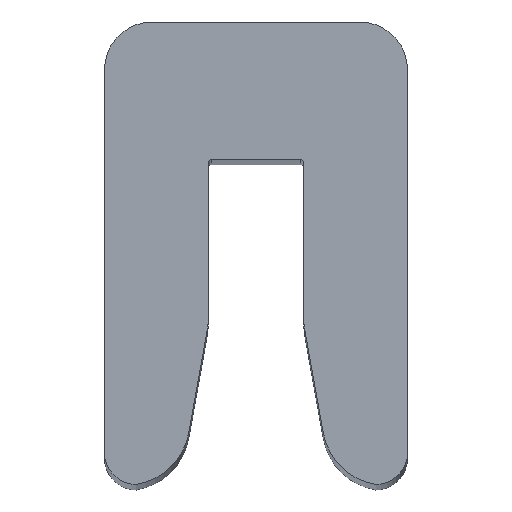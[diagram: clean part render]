
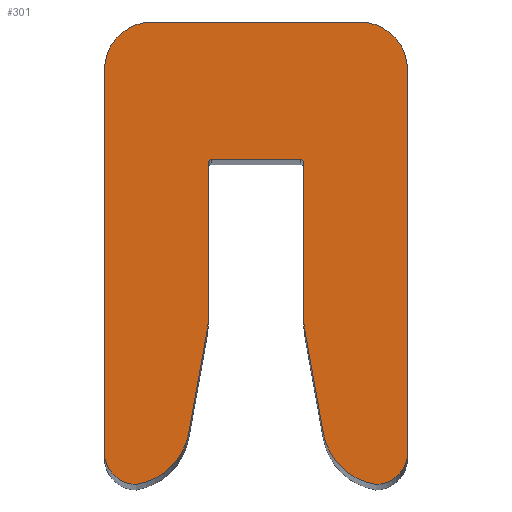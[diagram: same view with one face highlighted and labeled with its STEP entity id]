
A CAD part, top view. The second image highlights one B-rep face of the part: STEP entity #301.
In plain terms, the highlighted planar face has unit normal (0, 0, 1).
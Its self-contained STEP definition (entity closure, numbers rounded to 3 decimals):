
#2 = VECTOR ( 'NONE', #652, 1000. ) ;
#5 = AXIS2_PLACEMENT_3D ( 'NONE', #637, #117, #271 ) ;
#11 = CARTESIAN_POINT ( 'NONE',  ( -3.75, 1., 100. ) ) ;
#14 = CARTESIAN_POINT ( 'NONE',  ( -4.75, 1., 100. ) ) ;
#16 = VECTOR ( 'NONE', #239, 1000. ) ;
#20 = CARTESIAN_POINT ( 'NONE',  ( -4.75, 14.5, 100. ) ) ;
#21 = DIRECTION ( 'NONE',  ( 0., 0., 1. ) ) ;
#22 = EDGE_LOOP ( 'NONE', ( #570, #521, #517, #234, #415, #237, #446, #365, #672, #395, #160, #206, #67, #406, #154, #119, #554, #617 ) ) ;
#23 = CARTESIAN_POINT ( 'NONE',  ( 4.75, 14.5, 100. ) ) ;
#26 = DIRECTION ( 'NONE',  ( 0., -1., 0. ) ) ;
#41 = CARTESIAN_POINT ( 'NONE',  ( 1.5, 5.178, 100. ) ) ;
#50 = DIRECTION ( 'NONE',  ( -1., 0., 0. ) ) ;
#56 = EDGE_CURVE ( 'NONE', #671, #193, #240, .T. ) ;
#57 = LINE ( 'NONE', #529, #185 ) ;
#65 = DIRECTION ( 'NONE',  ( -0.177, -0.984, 0. ) ) ;
#67 = ORIENTED_EDGE ( 'NONE', *, *, #416, .T. ) ;
#73 = LINE ( 'NONE', #338, #16 ) ;
#80 = DIRECTION ( 'NONE',  ( -0.177, 0.984, 0. ) ) ;
#89 = CARTESIAN_POINT ( 'NONE',  ( 1.532, 4.824, 100. ) ) ;
#102 = CARTESIAN_POINT ( 'NONE',  ( -1.5, 0., 100. ) ) ;
#107 = AXIS2_PLACEMENT_3D ( 'NONE', #353, #247, #194 ) ;
#108 = AXIS2_PLACEMENT_3D ( 'NONE', #360, #142, #660 ) ;
#117 = DIRECTION ( 'NONE',  ( 0., 0., -1. ) ) ;
#119 = ORIENTED_EDGE ( 'NONE', *, *, #204, .F. ) ;
#122 = CARTESIAN_POINT ( 'NONE',  ( 1.5, 5., 100. ) ) ;
#125 = DIRECTION ( 'NONE',  ( 0., 0., 1. ) ) ;
#127 = VERTEX_POINT ( 'NONE', #169 ) ;
#134 = LINE ( 'NONE', #550, #469 ) ;
#142 = DIRECTION ( 'NONE',  ( 0., 0., 1. ) ) ;
#151 = VECTOR ( 'NONE', #80, 1000. ) ;
#154 = ORIENTED_EDGE ( 'NONE', *, *, #448, .T. ) ;
#160 = ORIENTED_EDGE ( 'NONE', *, *, #466, .T. ) ;
#162 = CARTESIAN_POINT ( 'NONE',  ( 3.75, 1., 100. ) ) ;
#169 = CARTESIAN_POINT ( 'NONE',  ( -2.108, 1.619, 100. ) ) ;
#174 = CARTESIAN_POINT ( 'NONE',  ( -3.75, 0., 100. ) ) ;
#175 = CARTESIAN_POINT ( 'NONE',  ( 4.75, 13., 100. ) ) ;
#181 = EDGE_CURVE ( 'NONE', #306, #671, #566, .T. ) ;
#184 = LINE ( 'NONE', #20, #532 ) ;
#185 = VECTOR ( 'NONE', #677, 1000. ) ;
#187 = CIRCLE ( 'NONE', #108, 2. ) ;
#188 = VERTEX_POINT ( 'NONE', #650 ) ;
#189 = CARTESIAN_POINT ( 'NONE',  ( 3.75, 0., 100. ) ) ;
#193 = VERTEX_POINT ( 'NONE', #606 ) ;
#194 = DIRECTION ( 'NONE',  ( -1., 0., 0. ) ) ;
#196 = AXIS2_PLACEMENT_3D ( 'NONE', #200, #619, #673 ) ;
#200 = CARTESIAN_POINT ( 'NONE',  ( 1.4, 10.1, 100. ) ) ;
#204 = EDGE_CURVE ( 'NONE', #306, #310, #333, .T. ) ;
#206 = ORIENTED_EDGE ( 'NONE', *, *, #277, .T. ) ;
#208 = CARTESIAN_POINT ( 'NONE',  ( -1.5, 10.1, 100. ) ) ;
#216 = AXIS2_PLACEMENT_3D ( 'NONE', #629, #585, #50 ) ;
#234 = ORIENTED_EDGE ( 'NONE', *, *, #350, .T. ) ;
#237 = ORIENTED_EDGE ( 'NONE', *, *, #593, .T. ) ;
#238 = DIRECTION ( 'NONE',  ( 0., 0., 1. ) ) ;
#239 = DIRECTION ( 'NONE',  ( 0., -1., 0. ) ) ;
#240 = CIRCLE ( 'NONE', #655, 1. ) ;
#246 = PLANE ( 'NONE',  #107 ) ;
#247 = DIRECTION ( 'NONE',  ( 0., 0., -1. ) ) ;
#256 = EDGE_CURVE ( 'NONE', #471, #378, #73, .T. ) ;
#257 = VERTEX_POINT ( 'NONE', #485 ) ;
#258 = VERTEX_POINT ( 'NONE', #174 ) ;
#265 = AXIS2_PLACEMENT_3D ( 'NONE', #493, #238, #656 ) ;
#271 = DIRECTION ( 'NONE',  ( -1., 0., 0. ) ) ;
#272 = DIRECTION ( 'NONE',  ( 0., 0., 1. ) ) ;
#277 = EDGE_CURVE ( 'NONE', #627, #452, #329, .T. ) ;
#286 = CARTESIAN_POINT ( 'NONE',  ( -1.5, 10.2, 100. ) ) ;
#293 = VERTEX_POINT ( 'NONE', #441 ) ;
#296 = AXIS2_PLACEMENT_3D ( 'NONE', #11, #381, #340 ) ;
#299 = CARTESIAN_POINT ( 'NONE',  ( -3.25, 13., 100. ) ) ;
#301 = ADVANCED_FACE ( 'NONE', ( #455 ), #246, .F. ) ;
#306 = VERTEX_POINT ( 'NONE', #402 ) ;
#307 = CIRCLE ( 'NONE', #5, 0.1 ) ;
#310 = VERTEX_POINT ( 'NONE', #89 ) ;
#324 = EDGE_CURVE ( 'NONE', #258, #127, #187, .T. ) ;
#327 = AXIS2_PLACEMENT_3D ( 'NONE', #481, #125, #384 ) ;
#329 = LINE ( 'NONE', #286, #401 ) ;
#333 = LINE ( 'NONE', #122, #151 ) ;
#338 = CARTESIAN_POINT ( 'NONE',  ( 1.5, 0., 100. ) ) ;
#340 = DIRECTION ( 'NONE',  ( -1., 0., 0. ) ) ;
#350 = EDGE_CURVE ( 'NONE', #188, #293, #430, .T. ) ;
#353 = CARTESIAN_POINT ( 'NONE',  ( 0., 0., 100. ) ) ;
#360 = CARTESIAN_POINT ( 'NONE',  ( -4.077, 1.973, 100. ) ) ;
#362 = VERTEX_POINT ( 'NONE', #567 ) ;
#365 = ORIENTED_EDGE ( 'NONE', *, *, #591, .F. ) ;
#370 = DIRECTION ( 'NONE',  ( -1., 0., 0. ) ) ;
#378 = VERTEX_POINT ( 'NONE', #41 ) ;
#381 = DIRECTION ( 'NONE',  ( 0., 0., 1. ) ) ;
#384 = DIRECTION ( 'NONE',  ( -1., 0., 0. ) ) ;
#391 = DIRECTION ( 'NONE',  ( -1., 0., 0. ) ) ;
#395 = ORIENTED_EDGE ( 'NONE', *, *, #538, .T. ) ;
#401 = VECTOR ( 'NONE', #494, 1000. ) ;
#402 = CARTESIAN_POINT ( 'NONE',  ( 2.108, 1.619, 100. ) ) ;
#406 = ORIENTED_EDGE ( 'NONE', *, *, #256, .T. ) ;
#415 = ORIENTED_EDGE ( 'NONE', *, *, #565, .T. ) ;
#416 = EDGE_CURVE ( 'NONE', #452, #471, #488, .T. ) ;
#419 = CARTESIAN_POINT ( 'NONE',  ( 1.5, 10.1, 100. ) ) ;
#421 = LINE ( 'NONE', #102, #2 ) ;
#426 = CARTESIAN_POINT ( 'NONE',  ( 3.25, 14.5, 100. ) ) ;
#430 = CIRCLE ( 'NONE', #633, 1.5 ) ;
#435 = CIRCLE ( 'NONE', #296, 1. ) ;
#441 = CARTESIAN_POINT ( 'NONE',  ( -4.75, 13., 100. ) ) ;
#444 = LINE ( 'NONE', #23, #603 ) ;
#446 = ORIENTED_EDGE ( 'NONE', *, *, #324, .T. ) ;
#448 = EDGE_CURVE ( 'NONE', #378, #310, #507, .T. ) ;
#452 = VERTEX_POINT ( 'NONE', #576 ) ;
#455 = FACE_OUTER_BOUND ( 'NONE', #22, .T. ) ;
#463 = AXIS2_PLACEMENT_3D ( 'NONE', #598, #21, #391 ) ;
#466 = EDGE_CURVE ( 'NONE', #511, #627, #307, .T. ) ;
#469 = VECTOR ( 'NONE', #65, 1000. ) ;
#471 = VERTEX_POINT ( 'NONE', #419 ) ;
#481 = CARTESIAN_POINT ( 'NONE',  ( -3.5, 5.178, 100. ) ) ;
#485 = CARTESIAN_POINT ( 'NONE',  ( -1.532, 4.824, 100. ) ) ;
#488 = CIRCLE ( 'NONE', #196, 0.1 ) ;
#493 = CARTESIAN_POINT ( 'NONE',  ( 3.25, 13., 100. ) ) ;
#494 = DIRECTION ( 'NONE',  ( 1., 0., 0. ) ) ;
#502 = CIRCLE ( 'NONE', #327, 2. ) ;
#507 = CIRCLE ( 'NONE', #216, 2. ) ;
#510 = DIRECTION ( 'NONE',  ( 0., 0., 1. ) ) ;
#511 = VERTEX_POINT ( 'NONE', #208 ) ;
#515 = EDGE_CURVE ( 'NONE', #599, #188, #57, .T. ) ;
#517 = ORIENTED_EDGE ( 'NONE', *, *, #515, .T. ) ;
#521 = ORIENTED_EDGE ( 'NONE', *, *, #666, .T. ) ;
#529 = CARTESIAN_POINT ( 'NONE',  ( 4.75, 14.5, 100. ) ) ;
#532 = VECTOR ( 'NONE', #26, 1000. ) ;
#538 = EDGE_CURVE ( 'NONE', #362, #511, #421, .T. ) ;
#541 = EDGE_CURVE ( 'NONE', #193, #609, #444, .T. ) ;
#550 = CARTESIAN_POINT ( 'NONE',  ( -1.5, 5., 100. ) ) ;
#554 = ORIENTED_EDGE ( 'NONE', *, *, #181, .T. ) ;
#558 = CIRCLE ( 'NONE', #265, 1.5 ) ;
#560 = DIRECTION ( 'NONE',  ( -1., 0., 0. ) ) ;
#565 = EDGE_CURVE ( 'NONE', #293, #575, #184, .T. ) ;
#566 = CIRCLE ( 'NONE', #463, 2. ) ;
#567 = CARTESIAN_POINT ( 'NONE',  ( -1.5, 5.178, 100. ) ) ;
#570 = ORIENTED_EDGE ( 'NONE', *, *, #541, .T. ) ;
#575 = VERTEX_POINT ( 'NONE', #14 ) ;
#576 = CARTESIAN_POINT ( 'NONE',  ( 1.4, 10.2, 100. ) ) ;
#585 = DIRECTION ( 'NONE',  ( 0., 0., 1. ) ) ;
#591 = EDGE_CURVE ( 'NONE', #257, #127, #134, .T. ) ;
#593 = EDGE_CURVE ( 'NONE', #575, #258, #435, .T. ) ;
#596 = DIRECTION ( 'NONE',  ( 0., 1., 0. ) ) ;
#598 = CARTESIAN_POINT ( 'NONE',  ( 4.077, 1.973, 100. ) ) ;
#599 = VERTEX_POINT ( 'NONE', #426 ) ;
#603 = VECTOR ( 'NONE', #596, 1000. ) ;
#606 = CARTESIAN_POINT ( 'NONE',  ( 4.75, 1., 100. ) ) ;
#609 = VERTEX_POINT ( 'NONE', #175 ) ;
#615 = EDGE_CURVE ( 'NONE', #257, #362, #502, .T. ) ;
#617 = ORIENTED_EDGE ( 'NONE', *, *, #56, .T. ) ;
#619 = DIRECTION ( 'NONE',  ( 0., 0., -1. ) ) ;
#627 = VERTEX_POINT ( 'NONE', #640 ) ;
#629 = CARTESIAN_POINT ( 'NONE',  ( 3.5, 5.178, 100. ) ) ;
#633 = AXIS2_PLACEMENT_3D ( 'NONE', #299, #510, #560 ) ;
#637 = CARTESIAN_POINT ( 'NONE',  ( -1.4, 10.1, 100. ) ) ;
#640 = CARTESIAN_POINT ( 'NONE',  ( -1.4, 10.2, 100. ) ) ;
#650 = CARTESIAN_POINT ( 'NONE',  ( -3.25, 14.5, 100. ) ) ;
#652 = DIRECTION ( 'NONE',  ( 0., 1., 0. ) ) ;
#655 = AXIS2_PLACEMENT_3D ( 'NONE', #162, #272, #370 ) ;
#656 = DIRECTION ( 'NONE',  ( -1., 0., 0. ) ) ;
#660 = DIRECTION ( 'NONE',  ( -1., 0., 0. ) ) ;
#666 = EDGE_CURVE ( 'NONE', #609, #599, #558, .T. ) ;
#671 = VERTEX_POINT ( 'NONE', #189 ) ;
#672 = ORIENTED_EDGE ( 'NONE', *, *, #615, .T. ) ;
#673 = DIRECTION ( 'NONE',  ( -1., 0., 0. ) ) ;
#677 = DIRECTION ( 'NONE',  ( -1., 0., 0. ) ) ;
